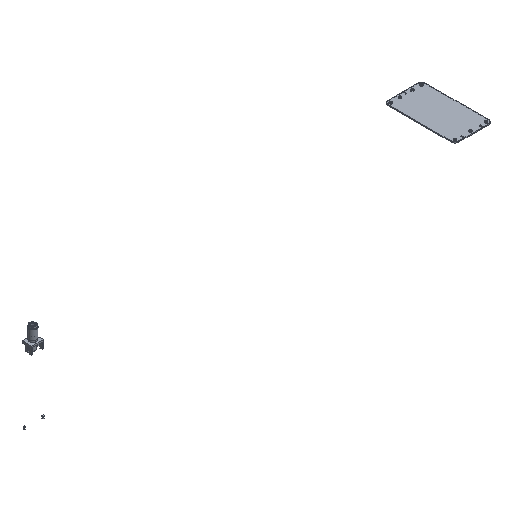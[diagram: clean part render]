
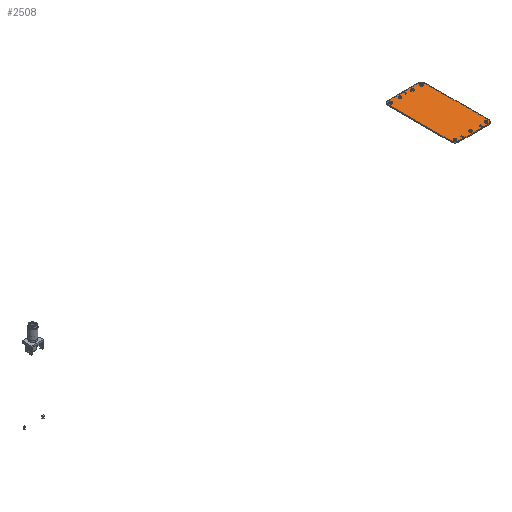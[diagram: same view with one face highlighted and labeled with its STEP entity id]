
A CAD part, isometric view. The second image highlights one B-rep face of the part: STEP entity #2508.
In plain terms, the highlighted planar face has unit normal (0, 0, 1).
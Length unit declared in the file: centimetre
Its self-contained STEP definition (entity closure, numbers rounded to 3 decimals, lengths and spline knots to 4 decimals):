
#456=CIRCLE('',#4412,0.11);
#458=CIRCLE('',#4415,0.11);
#460=CIRCLE('',#4418,0.11);
#462=CIRCLE('',#4421,0.11);
#464=CIRCLE('',#4424,0.11);
#466=CIRCLE('',#4427,0.11);
#468=CIRCLE('',#4430,0.11);
#470=CIRCLE('',#4442,0.3176);
#472=CIRCLE('',#4446,0.3176);
#474=CIRCLE('',#4450,0.3176);
#476=CIRCLE('',#4454,0.3176);
#1491=VERTEX_POINT('',#5582);
#1492=VERTEX_POINT('',#5583);
#1495=VERTEX_POINT('',#5591);
#1497=VERTEX_POINT('',#5597);
#1499=VERTEX_POINT('',#5606);
#1501=VERTEX_POINT('',#5611);
#1503=VERTEX_POINT('',#5616);
#1505=VERTEX_POINT('',#5621);
#1507=VERTEX_POINT('',#5626);
#1509=VERTEX_POINT('',#5631);
#1511=VERTEX_POINT('',#5636);
#1513=VERTEX_POINT('',#5641);
#1514=VERTEX_POINT('',#5642);
#1517=VERTEX_POINT('',#5650);
#1519=VERTEX_POINT('',#5656);
#1521=VERTEX_POINT('',#5665);
#1522=VERTEX_POINT('',#5666);
#1525=VERTEX_POINT('',#5674);
#1527=VERTEX_POINT('',#5680);
#1529=VERTEX_POINT('',#5689);
#1530=VERTEX_POINT('',#5690);
#1533=VERTEX_POINT('',#5698);
#1535=VERTEX_POINT('',#5704);
#1537=VERTEX_POINT('',#5710);
#1539=VERTEX_POINT('',#5716);
#1541=VERTEX_POINT('',#5722);
#1543=VERTEX_POINT('',#5728);
#1643=EDGE_CURVE('',#1491,#1492,#3087,.T.);
#1647=EDGE_CURVE('',#1492,#1495,#3091,.T.);
#1650=EDGE_CURVE('',#1495,#1497,#3094,.T.);
#1653=EDGE_CURVE('',#1497,#1491,#3097,.T.);
#1655=EDGE_CURVE('',#1499,#1499,#456,.T.);
#1657=EDGE_CURVE('',#1501,#1501,#458,.T.);
#1659=EDGE_CURVE('',#1503,#1503,#460,.T.);
#1661=EDGE_CURVE('',#1505,#1505,#462,.T.);
#1663=EDGE_CURVE('',#1507,#1507,#464,.T.);
#1665=EDGE_CURVE('',#1509,#1509,#466,.T.);
#1667=EDGE_CURVE('',#1511,#1511,#468,.T.);
#1669=EDGE_CURVE('',#1513,#1514,#3099,.T.);
#1673=EDGE_CURVE('',#1514,#1517,#3103,.T.);
#1676=EDGE_CURVE('',#1517,#1519,#3106,.T.);
#1679=EDGE_CURVE('',#1519,#1513,#3109,.T.);
#1681=EDGE_CURVE('',#1521,#1522,#3111,.T.);
#1685=EDGE_CURVE('',#1522,#1525,#3115,.T.);
#1688=EDGE_CURVE('',#1525,#1527,#3118,.T.);
#1691=EDGE_CURVE('',#1527,#1521,#3121,.T.);
#1693=EDGE_CURVE('',#1529,#1530,#3123,.T.);
#1697=EDGE_CURVE('',#1530,#1533,#470,.T.);
#1700=EDGE_CURVE('',#1533,#1535,#3128,.T.);
#1703=EDGE_CURVE('',#1535,#1537,#472,.T.);
#1706=EDGE_CURVE('',#1537,#1539,#3132,.T.);
#1709=EDGE_CURVE('',#1539,#1541,#474,.T.);
#1712=EDGE_CURVE('',#1541,#1543,#3136,.T.);
#1715=EDGE_CURVE('',#1543,#1529,#476,.T.);
#1965=ORIENTED_EDGE('',*,*,#1693,.F.);
#1966=ORIENTED_EDGE('',*,*,#1715,.F.);
#1967=ORIENTED_EDGE('',*,*,#1712,.F.);
#1968=ORIENTED_EDGE('',*,*,#1709,.F.);
#1969=ORIENTED_EDGE('',*,*,#1706,.F.);
#1970=ORIENTED_EDGE('',*,*,#1703,.F.);
#1971=ORIENTED_EDGE('',*,*,#1700,.F.);
#1972=ORIENTED_EDGE('',*,*,#1697,.F.);
#1973=ORIENTED_EDGE('',*,*,#1681,.F.);
#1974=ORIENTED_EDGE('',*,*,#1691,.F.);
#1975=ORIENTED_EDGE('',*,*,#1688,.F.);
#1976=ORIENTED_EDGE('',*,*,#1685,.F.);
#1977=ORIENTED_EDGE('',*,*,#1669,.F.);
#1978=ORIENTED_EDGE('',*,*,#1679,.F.);
#1979=ORIENTED_EDGE('',*,*,#1676,.F.);
#1980=ORIENTED_EDGE('',*,*,#1673,.F.);
#1981=ORIENTED_EDGE('',*,*,#1667,.F.);
#1982=ORIENTED_EDGE('',*,*,#1665,.F.);
#1983=ORIENTED_EDGE('',*,*,#1663,.F.);
#1984=ORIENTED_EDGE('',*,*,#1661,.F.);
#1985=ORIENTED_EDGE('',*,*,#1659,.F.);
#1986=ORIENTED_EDGE('',*,*,#1657,.F.);
#1987=ORIENTED_EDGE('',*,*,#1655,.F.);
#1988=ORIENTED_EDGE('',*,*,#1643,.F.);
#1989=ORIENTED_EDGE('',*,*,#1653,.F.);
#1990=ORIENTED_EDGE('',*,*,#1650,.F.);
#1991=ORIENTED_EDGE('',*,*,#1647,.F.);
#2235=EDGE_LOOP('',(#1965,#1966,#1967,#1968,#1969,#1970,#1971,#1972));
#2236=EDGE_LOOP('',(#1973,#1974,#1975,#1976));
#2237=EDGE_LOOP('',(#1977,#1978,#1979,#1980));
#2238=EDGE_LOOP('',(#1981));
#2239=EDGE_LOOP('',(#1982));
#2240=EDGE_LOOP('',(#1983));
#2241=EDGE_LOOP('',(#1984));
#2242=EDGE_LOOP('',(#1985));
#2243=EDGE_LOOP('',(#1986));
#2244=EDGE_LOOP('',(#1987));
#2245=EDGE_LOOP('',(#1988,#1989,#1990,#1991));
#2375=FACE_BOUND('',#2235,.T.);
#2376=FACE_BOUND('',#2236,.T.);
#2377=FACE_BOUND('',#2237,.T.);
#2378=FACE_BOUND('',#2238,.T.);
#2379=FACE_BOUND('',#2239,.T.);
#2380=FACE_BOUND('',#2240,.T.);
#2381=FACE_BOUND('',#2241,.T.);
#2382=FACE_BOUND('',#2242,.T.);
#2383=FACE_BOUND('',#2243,.T.);
#2384=FACE_BOUND('',#2244,.T.);
#2385=FACE_BOUND('',#2245,.T.);
#2508=ADVANCED_FACE('',(#2375,#2376,#2377,#2378,#2379,#2380,#2381,#2382,
#2383,#2384,#2385),#4879,.T.);
#3087=LINE('',#5581,#4637);
#3091=LINE('',#5590,#4641);
#3094=LINE('',#5596,#4644);
#3097=LINE('',#5602,#4647);
#3099=LINE('',#5640,#4649);
#3103=LINE('',#5649,#4653);
#3106=LINE('',#5655,#4656);
#3109=LINE('',#5661,#4659);
#3111=LINE('',#5664,#4661);
#3115=LINE('',#5673,#4665);
#3118=LINE('',#5679,#4668);
#3121=LINE('',#5685,#4671);
#3123=LINE('',#5688,#4673);
#3128=LINE('',#5703,#4678);
#3132=LINE('',#5715,#4682);
#3136=LINE('',#5727,#4686);
#4412=AXIS2_PLACEMENT_3D('',#5605,#6289,#6290);
#4415=AXIS2_PLACEMENT_3D('',#5610,#6295,#6296);
#4418=AXIS2_PLACEMENT_3D('',#5615,#6301,#6302);
#4421=AXIS2_PLACEMENT_3D('',#5620,#6307,#6308);
#4424=AXIS2_PLACEMENT_3D('',#5625,#6313,#6314);
#4427=AXIS2_PLACEMENT_3D('',#5630,#6319,#6320);
#4430=AXIS2_PLACEMENT_3D('',#5635,#6325,#6326);
#4442=AXIS2_PLACEMENT_3D('',#5697,#6368,#6369);
#4446=AXIS2_PLACEMENT_3D('',#5709,#6379,#6380);
#4450=AXIS2_PLACEMENT_3D('',#5721,#6390,#6391);
#4454=AXIS2_PLACEMENT_3D('',#5733,#6401,#6402);
#4456=AXIS2_PLACEMENT_3D('',#5735,#6405,$);
#4637=VECTOR('',#6272,1.);
#4641=VECTOR('',#6277,1.);
#4644=VECTOR('',#6281,1.);
#4647=VECTOR('',#6285,1.);
#4649=VECTOR('',#6330,1.);
#4653=VECTOR('',#6335,1.);
#4656=VECTOR('',#6339,1.);
#4659=VECTOR('',#6343,1.);
#4661=VECTOR('',#6346,1.);
#4665=VECTOR('',#6351,1.);
#4668=VECTOR('',#6355,1.);
#4671=VECTOR('',#6359,1.);
#4673=VECTOR('',#6362,1.);
#4678=VECTOR('',#6374,1.);
#4682=VECTOR('',#6385,1.);
#4686=VECTOR('',#6396,1.);
#4879=PLANE('',#4456);
#5581=CARTESIAN_POINT('',(36.1975,2.8829,0.08));
#5582=CARTESIAN_POINT('',(36.2864,2.8829,0.08));
#5583=CARTESIAN_POINT('',(36.1975,2.8829,0.08));
#5590=CARTESIAN_POINT('',(36.1975,2.6721,0.08));
#5591=CARTESIAN_POINT('',(36.1975,2.6721,0.08));
#5596=CARTESIAN_POINT('',(36.2864,2.6721,0.08));
#5597=CARTESIAN_POINT('',(36.2864,2.6721,0.08));
#5602=CARTESIAN_POINT('',(36.2864,2.8829,0.08));
#5605=CARTESIAN_POINT('',(35.7353,2.8893,0.08));
#5606=CARTESIAN_POINT('',(35.8453,2.8893,0.08));
#5610=CARTESIAN_POINT('',(38.2753,2.8893,0.08));
#5611=CARTESIAN_POINT('',(38.3853,2.8893,0.08));
#5615=CARTESIAN_POINT('',(37.5133,8.1445,0.08));
#5616=CARTESIAN_POINT('',(37.6233,8.1445,0.08));
#5620=CARTESIAN_POINT('',(35.7353,8.1445,0.08));
#5621=CARTESIAN_POINT('',(35.8453,8.1445,0.08));
#5625=CARTESIAN_POINT('',(36.4973,8.1445,0.08));
#5626=CARTESIAN_POINT('',(36.6073,8.1445,0.08));
#5630=CARTESIAN_POINT('',(38.2753,8.1445,0.08));
#5631=CARTESIAN_POINT('',(38.3853,8.1445,0.08));
#5635=CARTESIAN_POINT('',(37.0053,2.8893,0.08));
#5636=CARTESIAN_POINT('',(37.1153,2.8893,0.08));
#5640=CARTESIAN_POINT('',(37.0484,8.1661,0.08));
#5641=CARTESIAN_POINT('',(36.9595,8.1661,0.08));
#5642=CARTESIAN_POINT('',(37.0484,8.1661,0.08));
#5649=CARTESIAN_POINT('',(37.0484,8.3769,0.08));
#5650=CARTESIAN_POINT('',(37.0484,8.3769,0.08));
#5655=CARTESIAN_POINT('',(36.9595,8.3769,0.08));
#5656=CARTESIAN_POINT('',(36.9595,8.3769,0.08));
#5661=CARTESIAN_POINT('',(36.9595,8.1661,0.08));
#5664=CARTESIAN_POINT('',(37.7215,2.8829,0.08));
#5665=CARTESIAN_POINT('',(37.8104,2.8829,0.08));
#5666=CARTESIAN_POINT('',(37.7215,2.8829,0.08));
#5673=CARTESIAN_POINT('',(37.7215,2.6721,0.08));
#5674=CARTESIAN_POINT('',(37.7215,2.6721,0.08));
#5679=CARTESIAN_POINT('',(37.8104,2.6721,0.08));
#5680=CARTESIAN_POINT('',(37.8104,2.6721,0.08));
#5685=CARTESIAN_POINT('',(37.8104,2.8829,0.08));
#5688=CARTESIAN_POINT('',(35.7988,8.3972,0.08));
#5689=CARTESIAN_POINT('',(35.7988,8.3972,0.08));
#5690=CARTESIAN_POINT('',(38.2118,8.3972,0.08));
#5697=CARTESIAN_POINT('',(38.2116,8.0796,0.08));
#5698=CARTESIAN_POINT('',(38.5293,8.0797,0.08));
#5703=CARTESIAN_POINT('',(38.5293,8.0797,0.08));
#5704=CARTESIAN_POINT('',(38.5293,2.954,0.08));
#5709=CARTESIAN_POINT('',(38.2116,2.9541,0.08));
#5710=CARTESIAN_POINT('',(38.2118,2.6365,0.08));
#5715=CARTESIAN_POINT('',(38.2118,2.6365,0.08));
#5716=CARTESIAN_POINT('',(35.7988,2.6365,0.08));
#5721=CARTESIAN_POINT('',(35.7989,2.9541,0.08));
#5722=CARTESIAN_POINT('',(35.4813,2.954,0.08));
#5727=CARTESIAN_POINT('',(35.4813,2.954,0.08));
#5728=CARTESIAN_POINT('',(35.4813,8.0797,0.08));
#5733=CARTESIAN_POINT('',(35.7989,8.0796,0.08));
#5735=CARTESIAN_POINT('',(37.0053,5.5169,0.08));
#6272=DIRECTION('',(-1.,0.,0.));
#6277=DIRECTION('',(0.,-1.,0.));
#6281=DIRECTION('',(1.,0.,0.));
#6285=DIRECTION('',(0.,1.,0.));
#6289=DIRECTION('',(0.,0.,1.));
#6290=DIRECTION('',(0.11,0.,0.));
#6295=DIRECTION('',(0.,0.,1.));
#6296=DIRECTION('',(0.11,0.,0.));
#6301=DIRECTION('',(0.,0.,1.));
#6302=DIRECTION('',(0.11,0.,0.));
#6307=DIRECTION('',(0.,0.,1.));
#6308=DIRECTION('',(0.11,0.,0.));
#6313=DIRECTION('',(0.,0.,1.));
#6314=DIRECTION('',(0.11,0.,0.));
#6319=DIRECTION('',(0.,0.,1.));
#6320=DIRECTION('',(0.11,0.,0.));
#6325=DIRECTION('',(0.,0.,1.));
#6326=DIRECTION('',(0.11,0.,0.));
#6330=DIRECTION('',(1.,0.,0.));
#6335=DIRECTION('',(0.,1.,0.));
#6339=DIRECTION('',(-1.,0.,0.));
#6343=DIRECTION('',(0.,-1.,0.));
#6346=DIRECTION('',(-1.,0.,0.));
#6351=DIRECTION('',(0.,-1.,0.));
#6355=DIRECTION('',(1.,0.,0.));
#6359=DIRECTION('',(0.,1.,0.));
#6362=DIRECTION('',(1.,0.,0.));
#6368=DIRECTION('',(0.,0.,-1.));
#6369=DIRECTION('',(0.318,0.,0.));
#6374=DIRECTION('',(0.,-1.,0.));
#6379=DIRECTION('',(0.,0.,-1.));
#6380=DIRECTION('',(0.318,0.,0.));
#6385=DIRECTION('',(-1.,0.,0.));
#6390=DIRECTION('',(0.,0.,-1.));
#6391=DIRECTION('',(0.318,0.,0.));
#6396=DIRECTION('',(0.,1.,0.));
#6401=DIRECTION('',(0.,0.,-1.));
#6402=DIRECTION('',(0.318,0.,0.));
#6405=DIRECTION('',(0.,0.,1.));
